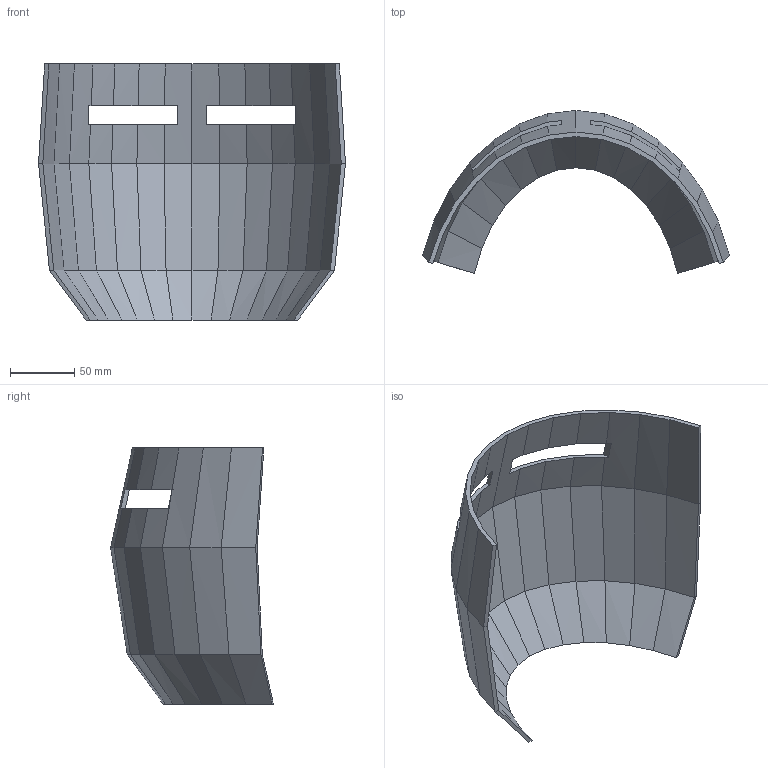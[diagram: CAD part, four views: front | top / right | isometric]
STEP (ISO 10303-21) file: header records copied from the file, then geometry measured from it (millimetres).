
FILE_DESCRIPTION(('Open CASCADE Model'),'2;1');
FILE_NAME('Open CASCADE Shape Model','2026-09-19T23:46:41',('Author'),( 'Open CASCADE'),'Open CASCADE STEP processor 7.9','Open CASCADE 7.9' ,'Unknown');
FILE_SCHEMA(('AUTOMOTIVE_DESIGN { 1 0 10303 214 1 1 1 1 }'));
Length unit declared in the file: millimetre
Products named in the file (1): Open CASCADE STEP translator 7.9 103
Bounding box: 239.67 x 127.07 x 200 mm (x, y, z)
Volume: 218678.6 mm3; surface area: 137352.1 mm2
Topology: 1 solids, 1 shells, 112 faces, 282 edges, 168 vertices
Faces by surface type: bspline 102, plane 10
Entity records: 6682 total; most frequent: CARTESIAN_POINT 1893, ORIENTED_EDGE 564, PCURVE 564, DEFINITIONAL_REPRESENTATION 564, DIRECTION 534, LINE 512, VECTOR 512, B_SPLINE_CURVE_WITH_KNOTS 334
